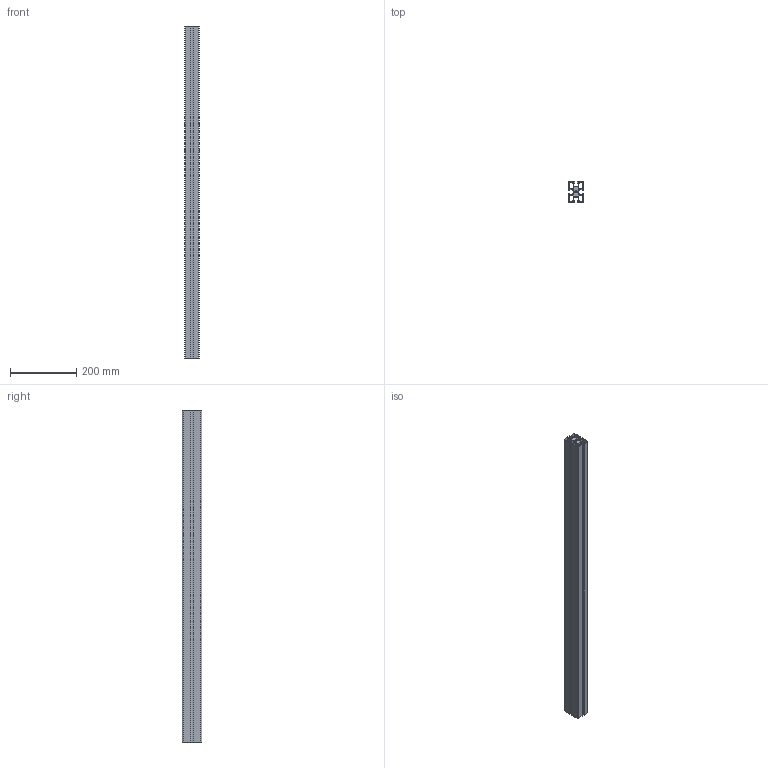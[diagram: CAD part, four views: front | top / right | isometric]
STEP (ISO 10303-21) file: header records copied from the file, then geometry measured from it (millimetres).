
FILE_DESCRIPTION (( 'STEP AP214' ), '1' );
FILE_NAME ('SA01002.step', '2024-12-03T16:28:12', ( '' ), ( '' ), 'SwSTEP 2.0', 'SolidWorks 2023', '' );
FILE_SCHEMA (( 'AUTOMOTIVE_DESIGN' ));
Length unit declared in the file: millimetre
Products named in the file (1): SA01002
Bounding box: 45 x 60 x 1000 mm (x, y, z)
Volume: 1031776.7 mm3; surface area: 621254.6 mm2
Topology: 1 solids, 1 shells, 83 faces, 243 edges, 162 vertices
Faces by surface type: plane 50, cylinder 33
Full cylindrical faces by diameter (mm): 7.45 x1
Entity records: 2801 total; most frequent: CARTESIAN_POINT 488, ORIENTED_EDGE 484, DIRECTION 476, EDGE_CURVE 242, LINE 176, VECTOR 176, VERTEX_POINT 162, AXIS2_PLACEMENT_3D 150
